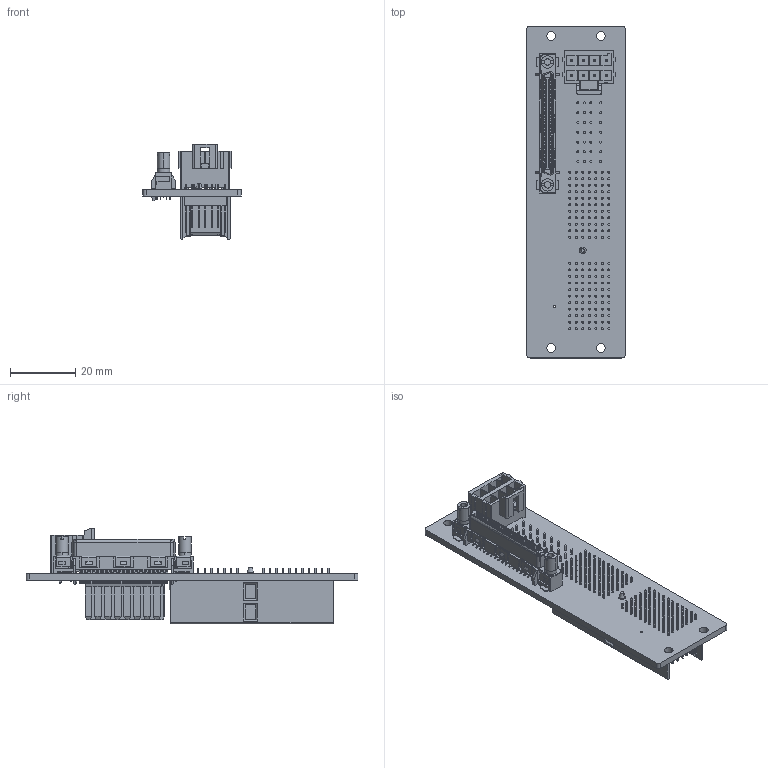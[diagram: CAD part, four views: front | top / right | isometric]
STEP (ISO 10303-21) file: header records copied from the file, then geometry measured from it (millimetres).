
FILE_DESCRIPTION((''),'2;1');
FILE_NAME('CU_SLSC_RTI-12301','2017-02-15T',('dkendric'),(''),'CREO PARAMETRIC BY PTC INC, 2015380','CREO PARAMETRIC BY PTC INC, 2015380','');
FILE_SCHEMA(('CONFIG_CONTROL_DESIGN'));
Products named in the file (1): CU_SLSC_RTI-12301
Bounding box: 30.22 x 101.86 x 29.4 mm (x, y, z)
Volume: 14473 mm3; surface area: 22094.9 mm2
Topology: 1 solids, 1 shells, 7293 faces, 20592 edges, 13719 vertices
Faces by surface type: plane 5632, cylinder 1417, bspline 88, torus 84, extrusion 60, cone 10, sphere 2
Entity records: 246159 total; most frequent: CARTESIAN_POINT 56278, ORIENTED_EDGE 41184, DIRECTION 36176, EDGE_CURVE 20592, VECTOR 16788, LINE 16728, VERTEX_POINT 13719, AXIS2_PLACEMENT_3D 9694
